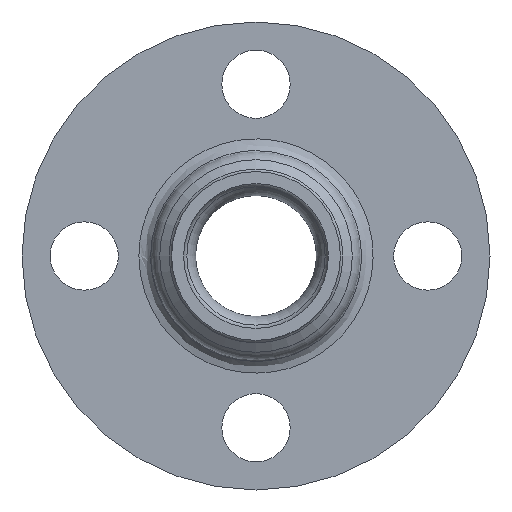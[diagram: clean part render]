
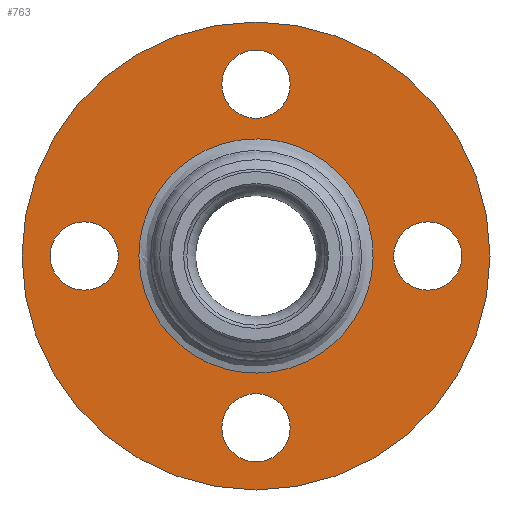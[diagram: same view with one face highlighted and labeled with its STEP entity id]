
A CAD part, left-side view. The second image highlights one B-rep face of the part: STEP entity #763.
In plain terms, the highlighted planar face has unit normal (-1, 0, 0).
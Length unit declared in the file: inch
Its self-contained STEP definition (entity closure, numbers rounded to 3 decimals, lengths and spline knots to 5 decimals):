
#60=FACE_BOUND('',#121,.T.);
#61=FACE_BOUND('',#122,.T.);
#62=FACE_BOUND('',#123,.T.);
#63=FACE_BOUND('',#124,.T.);
#64=FACE_BOUND('',#125,.T.);
#73=PLANE('',#828);
#80=B_SPLINE_CURVE_WITH_KNOTS('',3,(#1431,#1432,#1433,#1434,#1435,#1436,
#1437,#1438,#1439,#1440,#1441,#1442,#1443,#1444,#1445,#1446,#1447,#1448,
#1449,#1450,#1451,#1452,#1453,#1454),.UNSPECIFIED.,.T.,.F.,(4,1,1,1,1,1,
1,1,1,1,1,1,1,1,1,1,1,1,1,1,1,4),(-8.43385,-7.22902,-6.02418,
-4.81935,-3.61451,-2.00806,-1.60645,
-1.20484,-0.80322,-0.20081,0.40161,
1.20484,2.00806,2.30927,2.81128,3.61451,
4.41773,6.02418,7.22902,7.37962,7.83144,
8.43385),.UNSPECIFIED.);
#87=FACE_OUTER_BOUND('',#120,.T.);
#120=EDGE_LOOP('',(#510,#511));
#121=EDGE_LOOP('',(#512));
#122=EDGE_LOOP('',(#513));
#123=EDGE_LOOP('',(#514));
#124=EDGE_LOOP('',(#515));
#125=EDGE_LOOP('',(#516));
#195=CIRCLE('',#814,0.31);
#198=CIRCLE('',#818,0.31);
#201=CIRCLE('',#822,0.31);
#204=CIRCLE('',#826,0.31);
#206=CIRCLE('',#829,2.125);
#207=CIRCLE('',#830,2.125);
#289=VERTEX_POINT('',#1252);
#292=VERTEX_POINT('',#1260);
#295=VERTEX_POINT('',#1268);
#298=VERTEX_POINT('',#1276);
#299=VERTEX_POINT('',#1399);
#302=VERTEX_POINT('',#1456);
#303=VERTEX_POINT('',#1457);
#375=EDGE_CURVE('',#289,#289,#195,.T.);
#379=EDGE_CURVE('',#292,#292,#198,.T.);
#383=EDGE_CURVE('',#295,#295,#201,.T.);
#387=EDGE_CURVE('',#298,#298,#204,.T.);
#391=EDGE_CURVE('',#299,#299,#80,.T.);
#392=EDGE_CURVE('',#302,#303,#206,.T.);
#393=EDGE_CURVE('',#303,#302,#207,.T.);
#510=ORIENTED_EDGE('',*,*,#392,.F.);
#511=ORIENTED_EDGE('',*,*,#393,.F.);
#512=ORIENTED_EDGE('',*,*,#375,.T.);
#513=ORIENTED_EDGE('',*,*,#379,.T.);
#514=ORIENTED_EDGE('',*,*,#383,.T.);
#515=ORIENTED_EDGE('',*,*,#387,.T.);
#516=ORIENTED_EDGE('',*,*,#391,.F.);
#763=ADVANCED_FACE('',(#87,#60,#61,#62,#63,#64),#73,.T.);
#814=AXIS2_PLACEMENT_3D('',#1254,#959,#960);
#818=AXIS2_PLACEMENT_3D('',#1262,#968,#969);
#822=AXIS2_PLACEMENT_3D('',#1270,#977,#978);
#826=AXIS2_PLACEMENT_3D('',#1278,#986,#987);
#828=AXIS2_PLACEMENT_3D('',#1455,#990,#991);
#829=AXIS2_PLACEMENT_3D('',#1458,#992,#993);
#830=AXIS2_PLACEMENT_3D('',#1459,#994,#995);
#959=DIRECTION('center_axis',(1.,0.,0.));
#960=DIRECTION('ref_axis',(0.,-1.,0.));
#968=DIRECTION('center_axis',(1.,0.,0.));
#969=DIRECTION('ref_axis',(0.,0.,1.));
#977=DIRECTION('center_axis',(1.,0.,0.));
#978=DIRECTION('ref_axis',(0.,1.,0.));
#986=DIRECTION('center_axis',(1.,0.,0.));
#987=DIRECTION('ref_axis',(0.,0.,-1.));
#990=DIRECTION('center_axis',(-1.,0.,0.));
#991=DIRECTION('ref_axis',(0.,0.,1.));
#992=DIRECTION('center_axis',(1.,0.,0.));
#993=DIRECTION('ref_axis',(0.,1.,0.));
#994=DIRECTION('center_axis',(1.,0.,0.));
#995=DIRECTION('ref_axis',(0.,1.,0.));
#1252=CARTESIAN_POINT('',(1.165,0.31,-1.56));
#1254=CARTESIAN_POINT('Origin',(1.165,0.,-1.56));
#1260=CARTESIAN_POINT('',(1.165,-1.56,-0.31));
#1262=CARTESIAN_POINT('Origin',(1.165,-1.56,0.));
#1268=CARTESIAN_POINT('',(1.165,-0.31,1.56));
#1270=CARTESIAN_POINT('Origin',(1.165,0.,1.56));
#1276=CARTESIAN_POINT('',(1.165,1.56,0.31));
#1278=CARTESIAN_POINT('Origin',(1.165,1.56,0.));
#1399=CARTESIAN_POINT('',(1.165,1.06331,0.00086));
#1431=CARTESIAN_POINT('Ctrl Pts',(1.165,1.06331,0.00086));
#1432=CARTESIAN_POINT('Ctrl Pts',(1.165,1.06344,-0.15763));
#1433=CARTESIAN_POINT('Ctrl Pts',(1.165,0.99125,-0.47658));
#1434=CARTESIAN_POINT('Ctrl Pts',(1.165,0.68617,-0.85927));
#1435=CARTESIAN_POINT('Ctrl Pts',(1.165,0.2454,-1.07186));
#1436=CARTESIAN_POINT('Ctrl Pts',(1.165,-0.29897,-1.07261));
#1437=CARTESIAN_POINT('Ctrl Pts',(1.165,-0.68316,-0.85142));
#1438=CARTESIAN_POINT('Ctrl Pts',(1.165,-0.88149,-0.60142));
#1439=CARTESIAN_POINT('Ctrl Pts',(1.165,-0.96181,-0.46281));
#1440=CARTESIAN_POINT('Ctrl Pts',(1.165,-1.02932,-0.29046));
#1441=CARTESIAN_POINT('Ctrl Pts',(1.165,-1.06948,-0.07953));
#1442=CARTESIAN_POINT('Ctrl Pts',(1.165,-1.05905,0.18581));
#1443=CARTESIAN_POINT('Ctrl Pts',(1.165,-0.97374,0.466));
#1444=CARTESIAN_POINT('Ctrl Pts',(1.165,-0.82968,0.67772));
#1445=CARTESIAN_POINT('Ctrl Pts',(1.165,-0.67753,0.82471));
#1446=CARTESIAN_POINT('Ctrl Pts',(1.165,-0.50349,0.94885));
#1447=CARTESIAN_POINT('Ctrl Pts',(1.165,-0.24195,1.05155));
#1448=CARTESIAN_POINT('Ctrl Pts',(1.165,0.18646,1.08532));
#1449=CARTESIAN_POINT('Ctrl Pts',(1.165,0.65071,0.90388));
#1450=CARTESIAN_POINT('Ctrl Pts',(1.165,0.90113,0.58943));
#1451=CARTESIAN_POINT('Ctrl Pts',(1.165,0.99877,0.37176));
#1452=CARTESIAN_POINT('Ctrl Pts',(1.165,1.04723,0.22052));
#1453=CARTESIAN_POINT('Ctrl Pts',(1.165,1.06324,0.08011));
#1454=CARTESIAN_POINT('Ctrl Pts',(1.165,1.06331,0.00086));
#1455=CARTESIAN_POINT('Origin',(1.165,1.5475,0.));
#1456=CARTESIAN_POINT('',(1.165,2.125,0.));
#1457=CARTESIAN_POINT('',(1.165,-2.125,0.));
#1458=CARTESIAN_POINT('Origin',(1.165,0.,0.));
#1459=CARTESIAN_POINT('Origin',(1.165,0.,0.));
